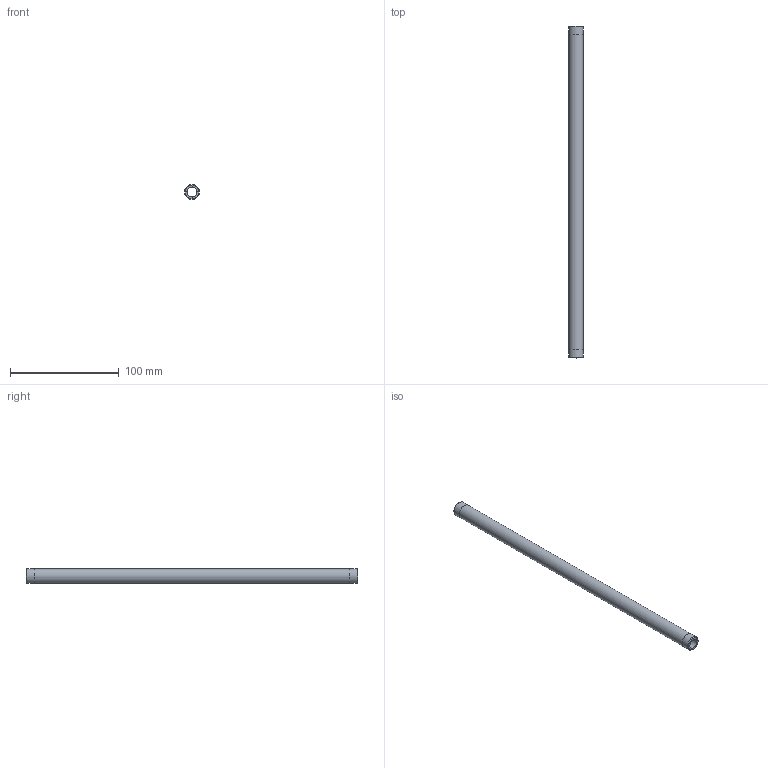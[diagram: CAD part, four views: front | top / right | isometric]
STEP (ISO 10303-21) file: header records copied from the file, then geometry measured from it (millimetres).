
FILE_DESCRIPTION(/* description */ (''),/* implementation_level */ '2;1');
FILE_NAME(/* name */ 'C:/Users/drich/Desktop/SSPN14-12 v1.step',/* time_stamp */ '2020-01-04T13:15:18-06:00',/* author */ (''),/* organization */ (''),/* preprocessor_version */ 'ST-DEVELOPER v18',/* originating_system */ 'Autodesk Translation Framework v8.12.0.6',/* authorisation */ '');
FILE_SCHEMA (('AUTOMOTIVE_DESIGN { 1 0 10303 214 3 1 1 }'));
Length unit declared in the file: inch
Products named in the file (1): SSPN14-12
Bounding box: 13.72 x 304.8 x 13.72 mm (x, y, z)
Volume: 24532.1 mm3; surface area: 22106 mm2
Topology: 1 solids, 1 shells, 10 faces, 24 edges, 18 vertices
Faces by surface type: cylinder 4, plane 4, cone 2
Full cylindrical faces by diameter (mm): 9.246 x1, 13.665 x2, 13.716 x1
Entity records: 353 total; most frequent: DIRECTION 64, CARTESIAN_POINT 53, ORIENTED_EDGE 48, AXIS2_PLACEMENT_3D 29, EDGE_CURVE 24, CIRCLE 18, VERTEX_POINT 18, EDGE_LOOP 14
